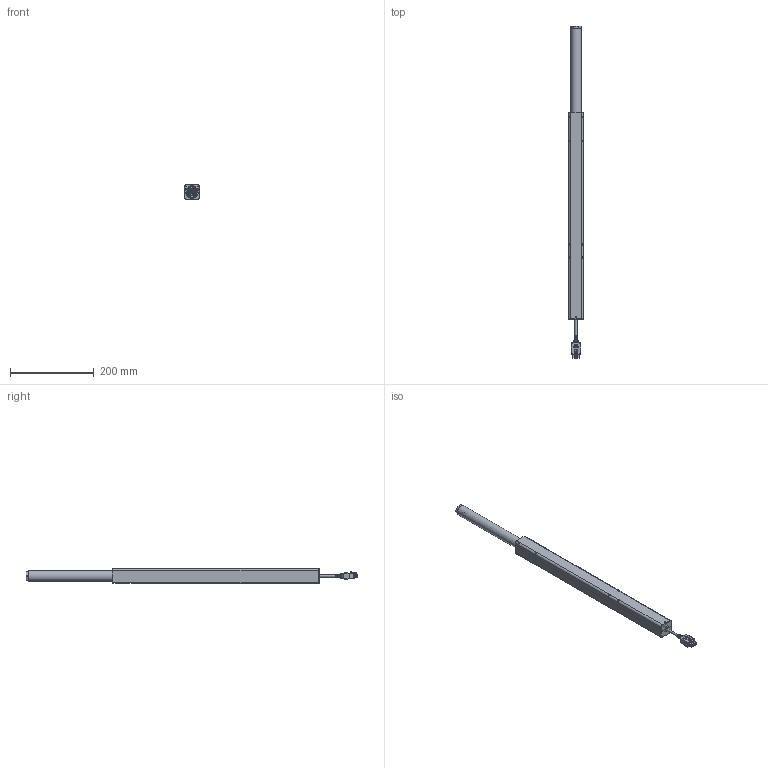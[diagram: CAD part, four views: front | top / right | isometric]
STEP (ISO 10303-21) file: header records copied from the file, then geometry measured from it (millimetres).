
FILE_DESCRIPTION(/* description */ ('Unknown'),/* implementation_level */ '2;1');
FILE_NAME(/* name */ '903.02002_00-Ausgefahren',/* time_stamp */ '2022-02-03T12:05:28+01:00',/* author */ ('Unknown'),/* organization */ ('Unknown'),/* preprocessor_version */ 'ST-DEVELOPER v18.1',/* originating_system */ 'Solid Edge',/* authorisation */ 'Unknown');
FILE_SCHEMA (('TECHNICAL_DATA_PACKAGING','AUTOMOTIVE_DESIGN {1 0 10303 214 3 1 1}'));
Products named in the file (9): 903.02002; 142.00014; 119.00449; 122.00005; 123.00109; 125.00051; 128.00025; Kabel Molex_kurz; 142.00275
Assembly tree (13 placements, depth 2):
  903.02002
    142.00014  x4
    119.00449
    122.00005
    123.00109
    125.00051
    128.00025  x2
    Kabel Molex_kurz
    142.00275  x2
Bounding box: 35 x 791.5 x 35 mm (x, y, z)
Volume: 290959.9 mm3; surface area: 183342.5 mm2
Topology: 13 solids, 13 shells, 2720 faces, 7570 edges, 4949 vertices
Faces by surface type: plane 1815, cylinder 650, bspline 98, torus 88, cone 53, sphere 16
Full cylindrical faces by diameter (mm): 1.25 x2, 2.459 x2, 2.6 x10, 3 x2, 4 x12, 4.134 x6, 5 x1, 6.647 x1, 8.376 x2, 17.3 x1, 19 x1, 20.8 x3, 21 x2, 25 x2, 30 x2
Entity records: 58085 total; most frequent: CARTESIAN_POINT 12725, ORIENTED_EDGE 8808, DIRECTION 8271, EDGE_CURVE 4404, LINE 3143, VECTOR 3143, VERTEX_POINT 2917, AXIS2_PLACEMENT_3D 2564
